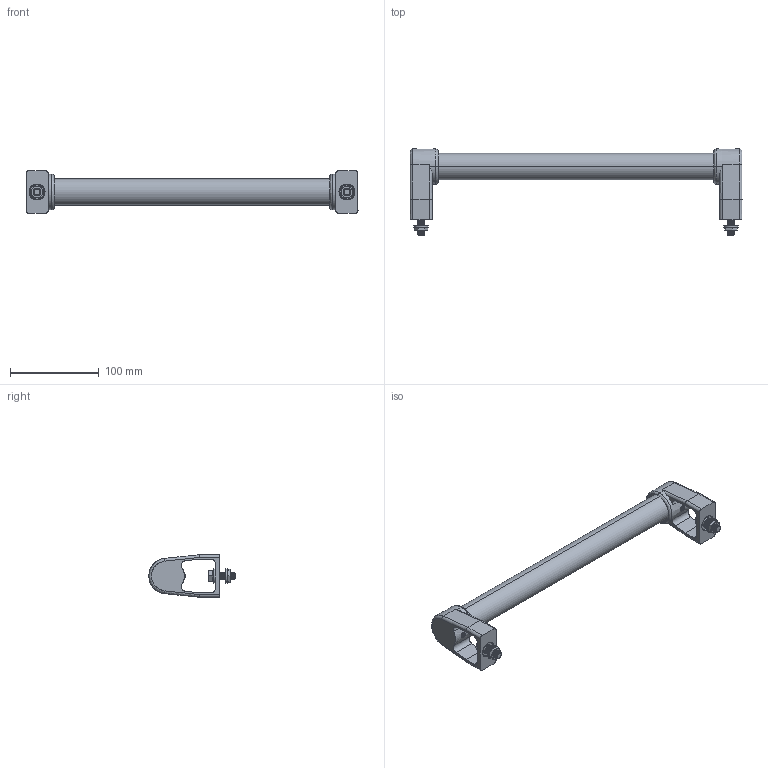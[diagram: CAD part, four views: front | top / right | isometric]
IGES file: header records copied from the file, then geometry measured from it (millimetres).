
Start section: SolidWorks IGES file using analytic representation for surfaces
Global section: file name: C:\Users\IanO\Desktop\Temp File\CADMASTER UPLOADING\78800_v2\78800_v2_20171221_IGES\78800.W0360.igs; native system: SolidWorks 2017; preprocessor: SolidWorks 2017; author: IanO; date: 180428.100853; units: millimetre
Bounding box: 375 x 97.4 x 48 mm (x, y, z)
Surface area: 105227.6 mm2 (no closed solid volume)
Topology: 0 solids, 0 shells, 486 faces, 5524 edges, 5520 vertices
Faces by surface type: revolution 372, bspline 114
